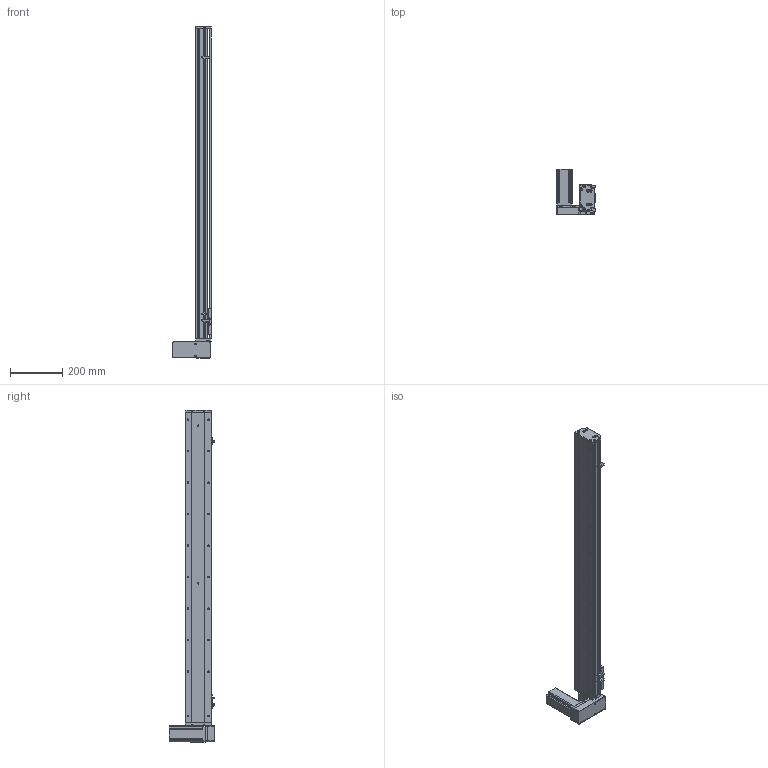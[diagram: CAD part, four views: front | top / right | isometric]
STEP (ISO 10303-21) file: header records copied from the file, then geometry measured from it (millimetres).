
FILE_DESCRIPTION (( 'STEP AP203' ), '1' );
FILE_NAME ('KSD100B-S1000-MRD-CM.STEP', '2019-10-16T07:56:23', ( '微软用户' ), ( '微软中国' ), 'SwSTEP 2.0', 'SolidWorks 2014', '' );
FILE_SCHEMA (( 'CONFIG_CONTROL_DESIGN' ));
Length unit declared in the file: millimetre
Products named in the file (12): KSD100B-S1000-MRD-CM; 100宽马达安装板同步带; 100宽马达安装板同步带右; 100宽同步带安装板半封闭; 100宽防尘板1000行程-同步带; 覜茼え100遵圉猾敕; U倰嫖萇EEㄜSX672; 台达ECMA－C20604AS伺服电机; 100宽马达安装板连板上下折丝杆同步带; 100宽底板半封闭同步带1000行程; 悵誘欶奻狟殏; 100遵傷啣肮祭湍
Assembly tree (13 placements, depth 2):
  KSD100B-S1000-MRD-CM
    100宽底板半封闭同步带1000行程
    100遵傷啣肮祭湍
    100宽马达安装板同步带
    100宽同步带安装板半封闭
    100宽马达安装板同步带右
    100宽防尘板1000行程-同步带
    覜茼え100遵圉猾敕
    U倰嫖萇EEㄜSX672  x3
    台达ECMA－C20604AS伺服电机
    100宽马达安装板连板上下折丝杆同步带
    悵誘欶奻狟殏
Bounding box: 148 x 174.7 x 1265 mm (x, y, z)
Volume: 2883964.5 mm3; surface area: 957375.7 mm2
Topology: 14 solids, 14 shells, 1469 faces, 4132 edges, 2627 vertices
Faces by surface type: cylinder 739, plane 591, cone 139
Entity records: 45032 total; most frequent: CARTESIAN_POINT 10320, DIRECTION 7168, ORIENTED_EDGE 6892, EDGE_CURVE 3446, AXIS2_PLACEMENT_3D 2621, VERTEX_POINT 2251, VECTOR 1926, LINE 1926
